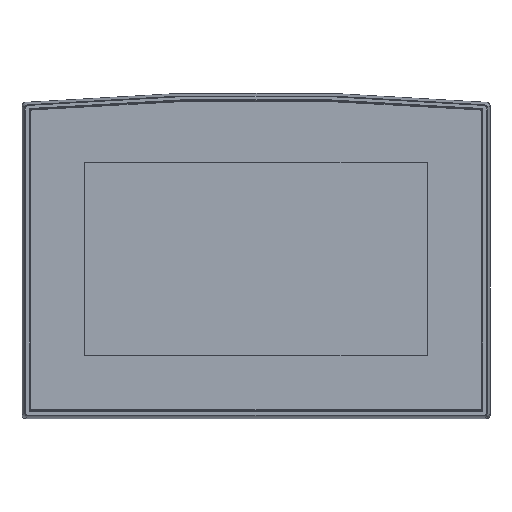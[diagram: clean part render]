
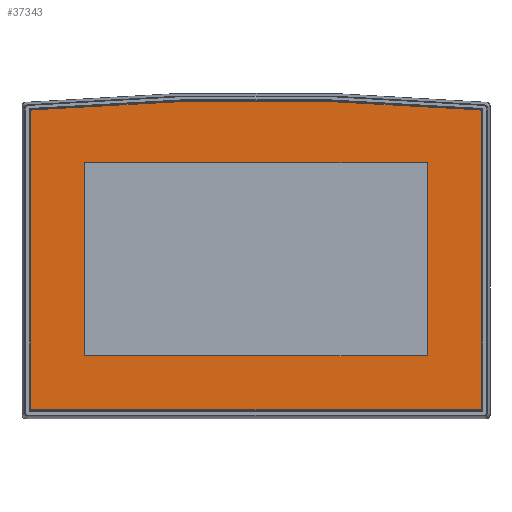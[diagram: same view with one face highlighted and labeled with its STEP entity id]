
A CAD part, top view. The second image highlights one B-rep face of the part: STEP entity #37343.
In plain terms, the highlighted planar face has unit normal (0, 0, 1).
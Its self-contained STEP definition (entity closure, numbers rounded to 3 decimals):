
#612 = CARTESIAN_POINT ( 'NONE',  ( 181.814, 114.871, 48.8 ) ) ;
#1815 = VECTOR ( 'NONE', #121014, 1000. ) ;
#3545 = CARTESIAN_POINT ( 'NONE',  ( 27.981, 114.871, 48.8 ) ) ;
#5670 = DIRECTION ( 'NONE',  ( 0., 1., 0. ) ) ;
#6950 = DIRECTION ( 'NONE',  ( 1., 0., 0. ) ) ;
#9796 = EDGE_CURVE ( 'NONE', #75128, #88675, #48777, .T. ) ;
#10334 = VERTEX_POINT ( 'NONE', #40604 ) ;
#10889 = ORIENTED_EDGE ( 'NONE', *, *, #50612, .T. ) ;
#16386 = CARTESIAN_POINT ( 'NONE',  ( 4.36, 138.447, 48.8 ) ) ;
#16394 = EDGE_LOOP ( 'NONE', ( #118310, #10889, #99916, #67992, #120652, #103738, #105132, #96858 ) ) ;
#17867 = ORIENTED_EDGE ( 'NONE', *, *, #68665, .F. ) ;
#18558 = LINE ( 'NONE', #95174, #32838 ) ;
#22464 = CARTESIAN_POINT ( 'NONE',  ( 181.814, 114.871, 48.8 ) ) ;
#22511 = AXIS2_PLACEMENT_3D ( 'NONE', #77136, #48293, #114817 ) ;
#22520 = VECTOR ( 'NONE', #98460, 1000. ) ;
#22597 = CARTESIAN_POINT ( 'NONE',  ( 4.402, 137.949, 48.8 ) ) ;
#23015 = VERTEX_POINT ( 'NONE', #16386 ) ;
#24423 = EDGE_CURVE ( 'NONE', #55297, #36919, #46707, .T. ) ;
#25608 = CARTESIAN_POINT ( 'NONE',  ( 27.981, 114.871, 48.8 ) ) ;
#26090 = CARTESIAN_POINT ( 'NONE',  ( 3.902, 137.949, 48.8 ) ) ;
#27090 = ORIENTED_EDGE ( 'NONE', *, *, #92440, .F. ) ;
#27603 = DIRECTION ( 'NONE',  ( 0., 0., 1. ) ) ;
#32799 = DIRECTION ( 'NONE',  ( 1., 0., 0. ) ) ;
#32838 = VECTOR ( 'NONE', #58093, 1000. ) ;
#33787 = ORIENTED_EDGE ( 'NONE', *, *, #110352, .F. ) ;
#35780 = CARTESIAN_POINT ( 'NONE',  ( 104.992, -1053.402, 48.8 ) ) ;
#36106 = EDGE_CURVE ( 'NONE', #37602, #75128, #79880, .T. ) ;
#36900 = DIRECTION ( 'NONE',  ( 1., 0., 0. ) ) ;
#36919 = VERTEX_POINT ( 'NONE', #104361 ) ;
#37343 = ADVANCED_FACE ( 'NONE', ( #46447, #121750 ), #84722, .T. ) ;
#37602 = VERTEX_POINT ( 'NONE', #66342 ) ;
#38115 = AXIS2_PLACEMENT_3D ( 'NONE', #35780, #27603, #68976 ) ;
#40604 = CARTESIAN_POINT ( 'NONE',  ( 205.623, 138.447, 48.8 ) ) ;
#41352 = CIRCLE ( 'NONE', #111497, 1196.09 ) ;
#41452 = DIRECTION ( 'NONE',  ( 1., 0., 0. ) ) ;
#41933 = VERTEX_POINT ( 'NONE', #82614 ) ;
#42234 = CARTESIAN_POINT ( 'NONE',  ( 3.902, 3.906, 48.8 ) ) ;
#43267 = VERTEX_POINT ( 'NONE', #50547 ) ;
#44119 = EDGE_CURVE ( 'NONE', #88675, #98878, #53361, .T. ) ;
#45317 = CARTESIAN_POINT ( 'NONE',  ( 206.081, 137.949, 48.8 ) ) ;
#45607 = CARTESIAN_POINT ( 'NONE',  ( 104.992, -1053.402, 48.8 ) ) ;
#46331 = CARTESIAN_POINT ( 'NONE',  ( 205.581, 137.949, 48.8 ) ) ;
#46447 = FACE_OUTER_BOUND ( 'NONE', #16394, .T. ) ;
#46707 = LINE ( 'NONE', #93156, #89494 ) ;
#48293 = DIRECTION ( 'NONE',  ( 0., 0., 1. ) ) ;
#48777 = CIRCLE ( 'NONE', #82800, 0.5 ) ;
#50547 = CARTESIAN_POINT ( 'NONE',  ( 181.814, 28.141, 48.8 ) ) ;
#50612 = EDGE_CURVE ( 'NONE', #23015, #55297, #74145, .T. ) ;
#53361 = LINE ( 'NONE', #91655, #65341 ) ;
#54649 = DIRECTION ( 'NONE',  ( 0., 0., 1. ) ) ;
#55297 = VERTEX_POINT ( 'NONE', #26090 ) ;
#57230 = ORIENTED_EDGE ( 'NONE', *, *, #106169, .F. ) ;
#57257 = CARTESIAN_POINT ( 'NONE',  ( 206.081, 4.406, 48.8 ) ) ;
#58093 = DIRECTION ( 'NONE',  ( 1., 0., 0. ) ) ;
#60306 = DIRECTION ( 'NONE',  ( 0., 0., 1. ) ) ;
#64099 = AXIS2_PLACEMENT_3D ( 'NONE', #22597, #60306, #41452 ) ;
#65341 = VECTOR ( 'NONE', #5670, 1000. ) ;
#65962 = VECTOR ( 'NONE', #32799, 1000. ) ;
#66342 = CARTESIAN_POINT ( 'NONE',  ( 4.402, 3.906, 48.8 ) ) ;
#67992 = ORIENTED_EDGE ( 'NONE', *, *, #80671, .T. ) ;
#68665 = EDGE_CURVE ( 'NONE', #113668, #41933, #89539, .T. ) ;
#68976 = DIRECTION ( 'NONE',  ( 1., 0., 0. ) ) ;
#69657 = CARTESIAN_POINT ( 'NONE',  ( 205.581, 3.906, 48.8 ) ) ;
#72706 = LINE ( 'NONE', #25608, #1815 ) ;
#74145 = CIRCLE ( 'NONE', #64099, 0.5 ) ;
#75128 = VERTEX_POINT ( 'NONE', #69657 ) ;
#77136 = CARTESIAN_POINT ( 'NONE',  ( 4.402, 4.406, 48.8 ) ) ;
#78666 = CARTESIAN_POINT ( 'NONE',  ( 27.981, 28.141, 48.8 ) ) ;
#79880 = LINE ( 'NONE', #42234, #65962 ) ;
#80671 = EDGE_CURVE ( 'NONE', #36919, #37602, #102755, .T. ) ;
#82614 = CARTESIAN_POINT ( 'NONE',  ( 27.981, 114.871, 48.8 ) ) ;
#82800 = AXIS2_PLACEMENT_3D ( 'NONE', #101735, #54649, #6950 ) ;
#83196 = AXIS2_PLACEMENT_3D ( 'NONE', #46331, #84609, #36900 ) ;
#84609 = DIRECTION ( 'NONE',  ( 0., 0., 1. ) ) ;
#84722 = PLANE ( 'NONE',  #38115 ) ;
#87615 = VERTEX_POINT ( 'NONE', #78666 ) ;
#88675 = VERTEX_POINT ( 'NONE', #57257 ) ;
#89494 = VECTOR ( 'NONE', #121375, 1000. ) ;
#89539 = LINE ( 'NONE', #3545, #101351 ) ;
#91655 = CARTESIAN_POINT ( 'NONE',  ( 206.081, 3.906, 48.8 ) ) ;
#92440 = EDGE_CURVE ( 'NONE', #41933, #87615, #72706, .T. ) ;
#92837 = EDGE_LOOP ( 'NONE', ( #27090, #17867, #57230, #33787 ) ) ;
#93156 = CARTESIAN_POINT ( 'NONE',  ( 3.902, 138.408, 48.8 ) ) ;
#93248 = CIRCLE ( 'NONE', #83196, 0.5 ) ;
#95174 = CARTESIAN_POINT ( 'NONE',  ( 27.981, 28.141, 48.8 ) ) ;
#96858 = ORIENTED_EDGE ( 'NONE', *, *, #113077, .T. ) ;
#98460 = DIRECTION ( 'NONE',  ( 0., 1., 0. ) ) ;
#98878 = VERTEX_POINT ( 'NONE', #45317 ) ;
#99597 = DIRECTION ( 'NONE',  ( -1., 0., 0. ) ) ;
#99916 = ORIENTED_EDGE ( 'NONE', *, *, #24423, .T. ) ;
#101351 = VECTOR ( 'NONE', #99597, 1000. ) ;
#101735 = CARTESIAN_POINT ( 'NONE',  ( 205.581, 4.406, 48.8 ) ) ;
#102755 = CIRCLE ( 'NONE', #22511, 0.5 ) ;
#103738 = ORIENTED_EDGE ( 'NONE', *, *, #9796, .T. ) ;
#104361 = CARTESIAN_POINT ( 'NONE',  ( 3.902, 4.406, 48.8 ) ) ;
#105132 = ORIENTED_EDGE ( 'NONE', *, *, #44119, .T. ) ;
#106169 = EDGE_CURVE ( 'NONE', #43267, #113668, #117874, .T. ) ;
#110352 = EDGE_CURVE ( 'NONE', #87615, #43267, #18558, .T. ) ;
#111497 = AXIS2_PLACEMENT_3D ( 'NONE', #45607, #120910, #121533 ) ;
#113077 = EDGE_CURVE ( 'NONE', #98878, #10334, #93248, .T. ) ;
#113668 = VERTEX_POINT ( 'NONE', #612 ) ;
#114817 = DIRECTION ( 'NONE',  ( 1., 0., 0. ) ) ;
#117232 = EDGE_CURVE ( 'NONE', #10334, #23015, #41352, .T. ) ;
#117874 = LINE ( 'NONE', #22464, #22520 ) ;
#118310 = ORIENTED_EDGE ( 'NONE', *, *, #117232, .T. ) ;
#120652 = ORIENTED_EDGE ( 'NONE', *, *, #36106, .T. ) ;
#120910 = DIRECTION ( 'NONE',  ( 0., 0., 1. ) ) ;
#121014 = DIRECTION ( 'NONE',  ( 0., -1., 0. ) ) ;
#121375 = DIRECTION ( 'NONE',  ( 0., -1., 0. ) ) ;
#121533 = DIRECTION ( 'NONE',  ( 1., 0., 0. ) ) ;
#121750 = FACE_BOUND ( 'NONE', #92837, .T. ) ;
